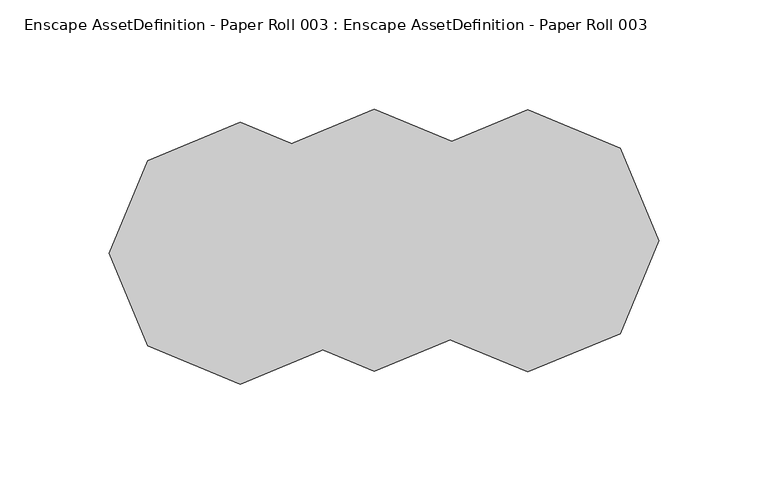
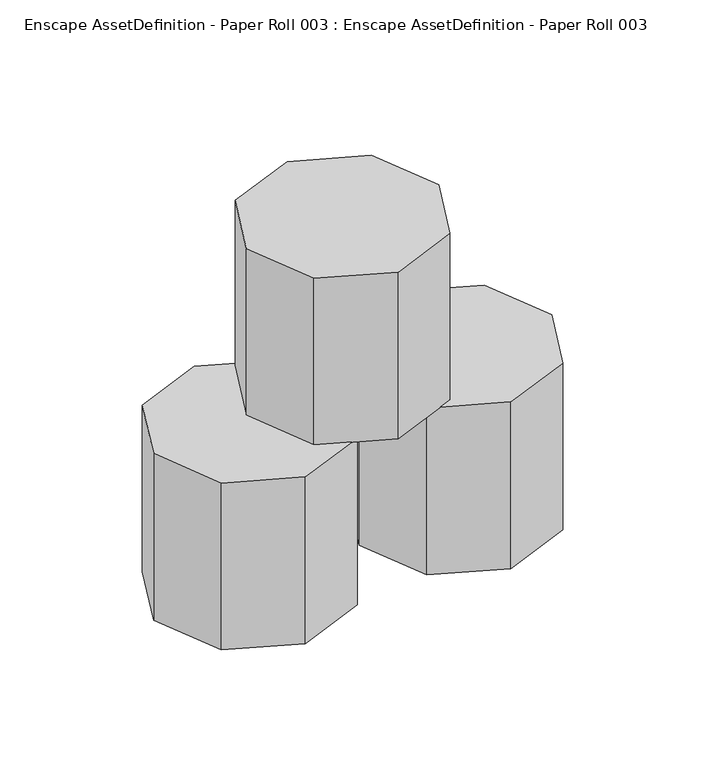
"""IFC4 building model written with IfcOpenShell, lengths in millimetres: geographic element geometry, Enscape AssetDefinition - Paper Roll 003 : Enscape AssetDefinition - Paper Roll 003."""

from ifc_helpers import new_model, si_unit, origin, place, context, project, spatial, triangles, source, transform, mapped, element, save


def enscape_assetdefinition_paper_roll_003_enscape_766b7e0f(model_context):
    return source(origin(), model_context, "Body", "Tessellation", [
        triangles([(-0.011, 65.9340024, 109.999999), (42.4149982, 48.3610016, 219.999998), (-0.011, 65.9340024, 219.999998), (-42.4379983, 48.3610016, 219.999998), (42.4149982, 48.3610016, 109.999999), (59.9890028, 5.9339997, 109.999999), (42.4149982, -36.4920018, 219.999998), (42.4149982, -36.4920018, 109.999999), (59.9890028, 5.9339997, 219.999998), (-60.0109991, 5.9339997, 219.999998), (-60.0109991, 5.9339997, 109.999999), (-42.4379983, -36.4920018, 109.999999), (-0.011, -54.0659995, 219.999998), (-42.4379983, -36.4920018, 219.999998), (-0.011, -54.0659995, 109.999999), (-42.4379983, 48.3610016, 109.999999), (-61.365999, 59.9999986, 0.0), (-18.9400004, 42.4260032, 109.999999), (-61.365999, 59.9999986, 109.999999), (-18.9400004, 42.4260032, 0.0), (-1.3660001, 0.0, 109.999999), (-1.3660001, 0.0, 0.0), (-18.9400004, -42.4260032, 109.999999), (-18.9400004, -42.4260032, 0.0), (-61.365999, -59.9999986, 109.999999), (-121.3660022, 0.0, 109.999999), (-103.7919931, 42.4260032, 109.999999), (-103.7919931, -42.4260032, 0.0), (-103.7919931, -42.4260032, 109.999999), (-121.3660022, 0.0, 0.0), (-61.365999, -59.9999986, 0.0), (-103.7919931, 42.4260032, 0.0), (70.2030005, 65.672999, 0.0), (112.6289992, 48.098999, 109.999999), (112.6289992, 48.098999, 0.0), (70.2030005, 65.672999, 109.999999), (130.2029901, 5.6730004, 109.999999), (27.7759981, 48.098999, 0.0), (130.2029901, 5.6730004, 0.0), (112.6289992, -36.754002, 109.999999), (112.6289992, -36.754002, 0.0), (70.2030005, -54.3269983, 109.999999), (27.7759981, 48.098999, 109.999999), (10.2030007, 5.6730004, 0.0), (27.7759981, -36.754002, 0.0), (10.2030007, 5.6730004, 109.999999), (27.7759981, -36.754002, 109.999999), (70.2030005, -54.3269983, 0.0)], [[45, 44, 38], [38, 48, 45], [38, 41, 48], [41, 42, 48], [48, 47, 45], [48, 42, 47], [45, 46, 44], [45, 47, 46], [44, 43, 38], [44, 46, 43], [37, 47, 42], [37, 46, 47], [37, 43, 46], [42, 40, 37], [41, 40, 42], [38, 39, 41], [39, 40, 41], [39, 37, 40], [38, 35, 39], [35, 37, 39], [35, 34, 37], [38, 43, 36], [37, 36, 43], [37, 34, 36], [38, 33, 35], [38, 36, 33], [33, 34, 35], [33, 36, 34], [28, 30, 32], [32, 31, 28], [32, 24, 31], [24, 25, 31], [31, 29, 28], [31, 25, 29], [28, 26, 30], [28, 29, 26], [30, 27, 32], [30, 26, 27], [21, 29, 25], [21, 26, 29], [21, 27, 26], [25, 23, 21], [24, 23, 25], [32, 22, 24], [22, 23, 24], [22, 21, 23], [32, 20, 22], [20, 21, 22], [20, 18, 21], [32, 27, 19], [21, 19, 27], [21, 18, 19], [32, 17, 20], [32, 19, 17], [17, 18, 20], [17, 19, 18], [12, 11, 16], [16, 15, 12], [16, 8, 15], [8, 13, 15], [15, 14, 12], [15, 13, 14], [12, 10, 11], [12, 14, 10], [11, 4, 16], [11, 10, 4], [9, 14, 13], [9, 10, 14], [9, 4, 10], [13, 7, 9], [8, 7, 13], [16, 6, 8], [6, 7, 8], [6, 9, 7], [16, 5, 6], [5, 9, 6], [5, 2, 9], [16, 4, 3], [9, 3, 4], [9, 2, 3], [16, 1, 5], [16, 3, 1], [1, 2, 5], [1, 3, 2]]),
    ])


if __name__ == "__main__":
    model = new_model("IFC4")
    model_context = context("Model", 3, world=origin())
    ifc_project = project(units=[si_unit("LENGTHUNIT", "METRE", prefix="MILLI")], contexts=[model_context])
    site = spatial("IfcSite", under=ifc_project)
    building = spatial("IfcBuilding", under=site)
    placement = place(None, origin())
    enscape_assetdefinition_paper_roll_003_enscape_shape = enscape_assetdefinition_paper_roll_003_enscape_766b7e0f(model_context)
    element("IfcGeographicElement", 1, ObjectType="Enscape AssetDefinition - Paper Roll 003 : Enscape AssetDefinition - Paper Roll 003", at=placement, inside=building, context=model_context, shape_type="MappedRepresentation", body=[
        mapped(enscape_assetdefinition_paper_roll_003_enscape_shape, transform((0.0, 0.0, 0.0), x_axis=(1.0, 0.0, 0.0), y_axis=(0.0, 1.0, 0.0), z_axis=(0.0, 0.0, 1.0))),
    ])
    save(model, "model.ifc")
